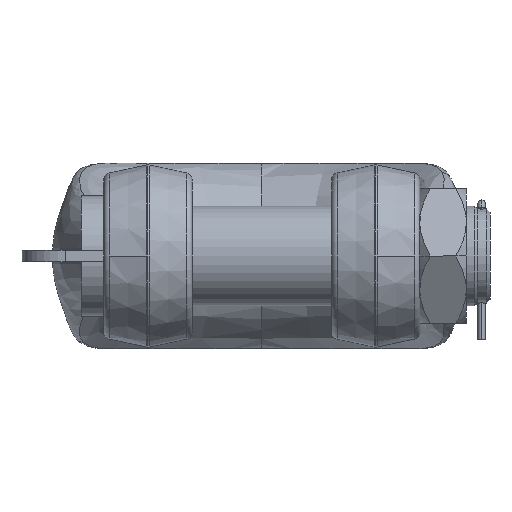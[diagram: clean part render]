
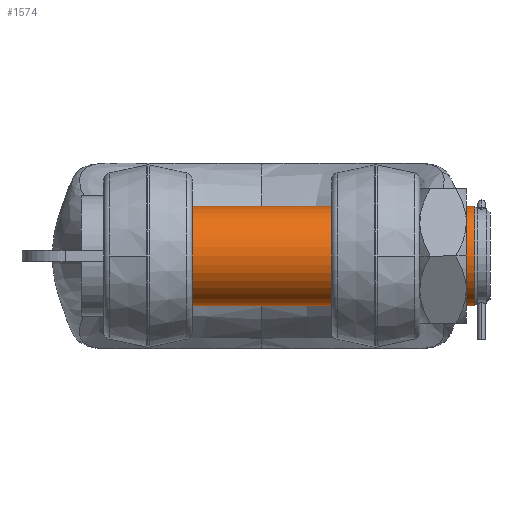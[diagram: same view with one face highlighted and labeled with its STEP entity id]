
A CAD part, front view. The second image highlights one B-rep face of the part: STEP entity #1574.
In plain terms, the highlighted cylindrical face has radius 107.5 mm (diameter 215 mm), a partial arc.
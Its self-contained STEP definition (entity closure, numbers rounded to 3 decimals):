
#1574=ADVANCED_FACE('',(#3161),#3162,.T.);
#3161=FACE_OUTER_BOUND('',#65472,.T.);
#3162=CYLINDRICAL_SURFACE('',#65473,107.5);
#65472=EDGE_LOOP('',(#69502,#69503,#69504,#69505));
#65473=AXIS2_PLACEMENT_3D('',#69506,#69507,#69508);
#69502=ORIENTED_EDGE('',*,*,#71340,.T.);
#69503=ORIENTED_EDGE('',*,*,#71351,.T.);
#69504=ORIENTED_EDGE('',*,*,#71342,.T.);
#69505=ORIENTED_EDGE('',*,*,#71348,.T.);
#69506=CARTESIAN_POINT('',(-340.0,0.,0.));
#69507=DIRECTION('',(-1.0,0.0,0.0));
#69508=DIRECTION('',(0.0,0.0,-1.0));
#71340=EDGE_CURVE('',#73954,#73950,#73955,.T.);
#71342=EDGE_CURVE('',#73948,#73956,#73958,.T.);
#71348=EDGE_CURVE('',#73956,#73954,#73966,.T.);
#71351=EDGE_CURVE('',#73950,#73948,#73969,.T.);
#73948=VERTEX_POINT('',#108631);
#73950=VERTEX_POINT('',#108634);
#73954=VERTEX_POINT('',#108639);
#73955=LINE('',#108640,#108641);
#73956=VERTEX_POINT('',#108642);
#73958=LINE('',#108644,#108645);
#73966=CIRCLE('',#108653,107.5);
#73969=CIRCLE('',#108656,107.5);
#108631=CARTESIAN_POINT('',(458.0,0.,107.5));
#108634=CARTESIAN_POINT('',(458.0,0.,-107.5));
#108639=CARTESIAN_POINT('',(-336.0,0.,-107.5));
#108640=CARTESIAN_POINT('',(61.,0.,-107.5));
#108641=VECTOR('',#110139,1.0);
#108642=CARTESIAN_POINT('',(-336.0,0.,107.5));
#108644=CARTESIAN_POINT('',(61.,0.,107.5));
#108645=VECTOR('',#110143,1.0);
#108653=AXIS2_PLACEMENT_3D('',#110153,#110154,#110155);
#108656=AXIS2_PLACEMENT_3D('',#110159,#110160,#110161);
#110139=DIRECTION('',(1.0,-0.0,-0.0));
#110143=DIRECTION('',(-1.0,0.0,0.0));
#110153=CARTESIAN_POINT('',(-336.0,0.,0.));
#110154=DIRECTION('',(1.0,0.0,0.0));
#110155=DIRECTION('',(0.0,0.0,-1.0));
#110159=CARTESIAN_POINT('',(458.0,0.,0.));
#110160=DIRECTION('',(-1.0,0.0,0.0));
#110161=DIRECTION('',(0.0,0.0,-1.0));
